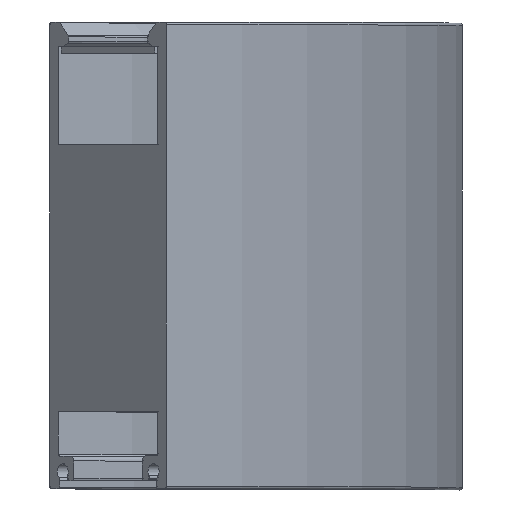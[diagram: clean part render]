
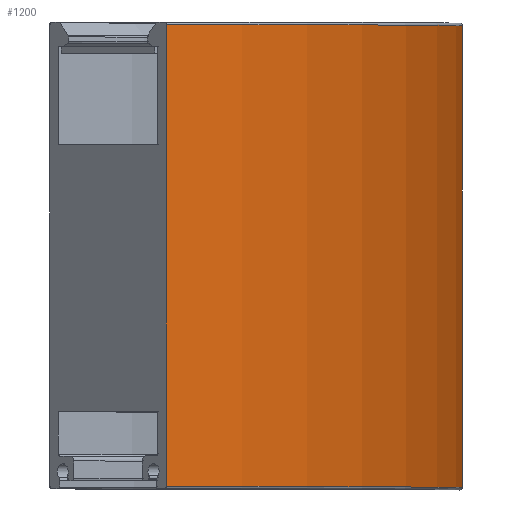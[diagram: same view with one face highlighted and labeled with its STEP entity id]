
A CAD part, top view. The second image highlights one B-rep face of the part: STEP entity #1200.
In plain terms, the highlighted cylindrical face has radius 205.8 mm (diameter 411.6 mm), a partial arc.
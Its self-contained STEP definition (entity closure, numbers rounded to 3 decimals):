
#41=CYLINDRICAL_SURFACE('',#1401,205.8);
#87=LINE('',#2158,#155);
#88=LINE('',#2160,#156);
#155=VECTOR('',#1751,10.);
#156=VECTOR('',#1752,10.);
#240=FACE_OUTER_BOUND('',#306,.T.);
#306=EDGE_LOOP('',(#917,#918,#919,#920));
#410=CIRCLE('',#1400,205.8);
#411=CIRCLE('',#1402,205.8);
#529=VERTEX_POINT('',#2151);
#530=VERTEX_POINT('',#2153);
#531=VERTEX_POINT('',#2157);
#532=VERTEX_POINT('',#2159);
#692=EDGE_CURVE('',#529,#530,#410,.T.);
#693=EDGE_CURVE('',#531,#529,#87,.T.);
#694=EDGE_CURVE('',#532,#530,#88,.T.);
#695=EDGE_CURVE('',#531,#532,#411,.T.);
#917=ORIENTED_EDGE('',*,*,#693,.T.);
#918=ORIENTED_EDGE('',*,*,#692,.T.);
#919=ORIENTED_EDGE('',*,*,#694,.F.);
#920=ORIENTED_EDGE('',*,*,#695,.F.);
#1200=ADVANCED_FACE('',(#240),#41,.T.);
#1400=AXIS2_PLACEMENT_3D('',#2155,#1747,#1748);
#1401=AXIS2_PLACEMENT_3D('',#2156,#1749,#1750);
#1402=AXIS2_PLACEMENT_3D('',#2161,#1753,#1754);
#1747=DIRECTION('center_axis',(0.,-1.,0.));
#1748=DIRECTION('ref_axis',(1.,0.,0.));
#1749=DIRECTION('center_axis',(0.,-1.,0.));
#1750=DIRECTION('ref_axis',(1.,0.,0.));
#1751=DIRECTION('',(0.,1.,0.));
#1752=DIRECTION('',(0.,1.,0.));
#1753=DIRECTION('center_axis',(0.,-1.,0.));
#1754=DIRECTION('ref_axis',(1.,0.,0.));
#2151=CARTESIAN_POINT('',(14.783,60.161,0.));
#2153=CARTESIAN_POINT('',(-45.495,60.161,145.523));
#2155=CARTESIAN_POINT('Origin',(-191.017,60.161,0.));
#2156=CARTESIAN_POINT('Origin',(-191.017,13.111,0.));
#2157=CARTESIAN_POINT('',(14.783,-33.939,0.));
#2158=CARTESIAN_POINT('',(14.783,-33.939,0.));
#2159=CARTESIAN_POINT('',(-45.495,-33.939,145.523));
#2160=CARTESIAN_POINT('',(-45.495,-33.939,145.523));
#2161=CARTESIAN_POINT('Origin',(-191.017,-33.939,0.));
